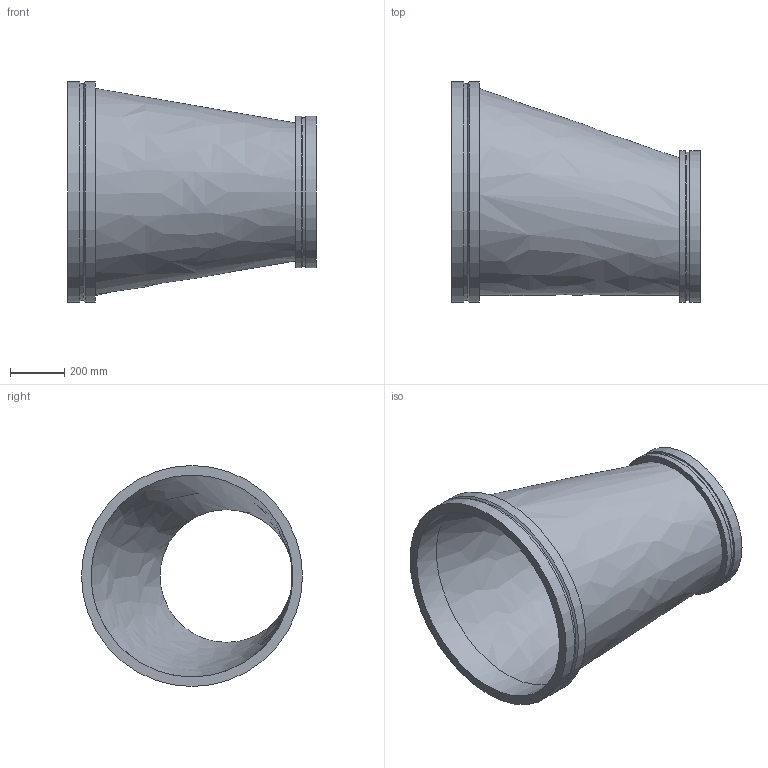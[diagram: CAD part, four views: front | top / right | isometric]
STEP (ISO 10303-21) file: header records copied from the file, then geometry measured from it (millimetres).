
FILE_DESCRIPTION(/* description */ ('VIC REDUCER ECCENTRIC No W51-VR','CAx-IF Rec.Pracs.---Representation and Presentation of Product Manufacturing Information (PMI)---4.0---2014-10-13'),/* implementation_level */ '2;1');
FILE_NAME(/* name */ 'C:\Users\kkamble\AppData\Roaming\Autodesk\ApplicationPlugins\Back Up\Victaulic_Vic-Ring_Reducer Eccentric_No W51 VR (AGR)\Victaulic_Vic-Ring_Reducer Eccentric_No W51 VR (AGR)_30.0x20.0 (750x500).stp',/* time_stamp */ '2020-09-10T11:50:00+05:00',/* author */ ('CONSTRUCTION PIPING SERVICES'),/* organization */ ('Victaulic'),/* preprocessor_version */ 'ST-DEVELOPER v17.2',/* originating_system */ 'Autodesk Inventor 2019',/* authorisation */ '');
FILE_SCHEMA (('AP242_MANAGED_MODEL_BASED_3D_ENGINEERING_MIM_LF { 1 0 10303 442 1 1 4 }'));
Length unit declared in the file: inch
Products named in the file (1): W51 VR-30.0x20.0
Bounding box: 914.4 x 812.8 x 812.8 mm (x, y, z)
Volume: 26360686.1 mm3; surface area: 3995306.2 mm2
Topology: 1 solids, 1 shells, 18 faces, 49 edges, 37 vertices
Faces by surface type: cylinder 8, plane 6, cone 2, bspline 2
Full cylindrical faces by diameter (mm): 488.95 x1, 546.1 x1, 558.8 x2, 742.95 x1, 798.322 x1, 812.8 x2
Entity records: 792 total; most frequent: CARTESIAN_POINT 158, DIRECTION 144, ORIENTED_EDGE 98, AXIS2_PLACEMENT_3D 67, EDGE_CURVE 49, CIRCLE 37, VERTEX_POINT 37, EDGE_LOOP 24
